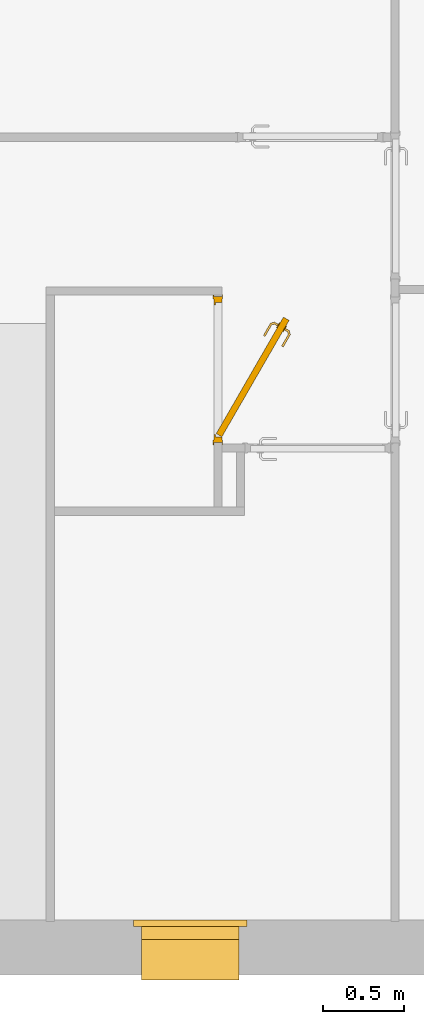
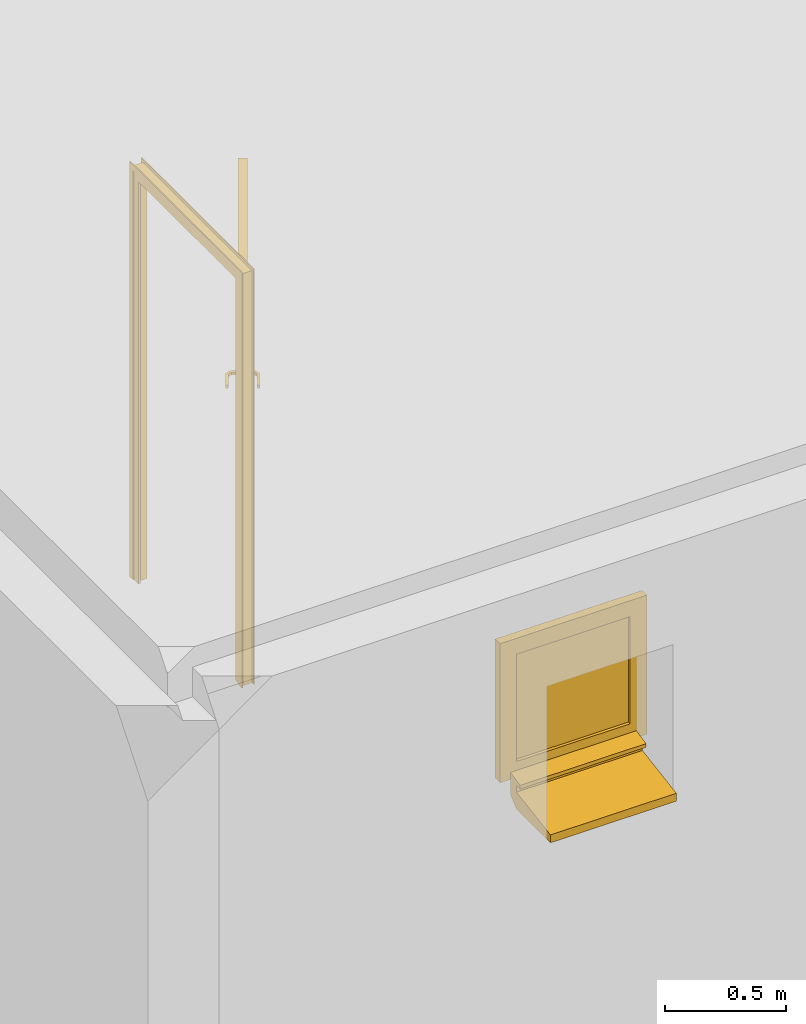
# One storey, part 3 of 14: 1 door, 1 window.
"""IFC2X3 building model written with IfcOpenShell, lengths in millimetres."""

from ifc_helpers import new_model, entity, si_unit, converted_unit, direction, frame, origin, origin_with_axes, place, context, project, spatial, faceted_brep, element, save


model = new_model("IFC2X3")

# Units and contexts
model_context = context("Model", 3, precision=1e-05, world=origin(), true_north=direction((0.0, 1.0, 0.0)))
ifc_project = project(units=[si_unit("LENGTHUNIT", "METRE", prefix="MILLI"), si_unit("AREAUNIT", "SQUARE_METRE"), si_unit("VOLUMEUNIT", "CUBIC_METRE"), converted_unit("PLANEANGLEUNIT", "DEGREE", entity("IfcPlaneAngleMeasure", 0.01745), si_unit("PLANEANGLEUNIT", "RADIAN"), dimensions=[0, 0, 0, 0, 0, 0, 0]), si_unit("SOLIDANGLEUNIT", "STERADIAN"), si_unit("MASSUNIT", "GRAM"), si_unit("TIMEUNIT", "SECOND"), si_unit("THERMODYNAMICTEMPERATUREUNIT", "DEGREE_CELSIUS"), si_unit("LUMINOUSINTENSITYUNIT", "LUMEN")], contexts=[model_context])

# Site, building, storey
placement = place(None, origin_with_axes())
site_placement = place(placement, frame((11636.08881703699, 2815.7442167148, 4.768371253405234e-06), z_axis=(0.0, 0.0, 1.0), x_axis=(1.0, 0.0, 0.0)))
site = spatial("IfcSite", under=ifc_project, at=site_placement, Name="Surface", CompositionType="ELEMENT")
building_placement = place(placement, origin_with_axes())
building = spatial("IfcBuilding", under=site, at=building_placement, Name="Default Building", CompositionType="ELEMENT")
storey_placement = place(building_placement, origin_with_axes())
storey = spatial("IfcBuildingStorey", under=building, at=storey_placement, Name="Plan étage", CompositionType="ELEMENT", Elevation=0.0)

# Window
window_placement = place(storey_placement, frame((11636.08881703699, 2815.7442167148, 4.768371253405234e-06), z_axis=(0.0, 0.0, 1.0), x_axis=(1.0, 0.0, 0.0)))
element("IfcWindow", 1, at=window_placement, inside=storey, Name="IfcWindow - FR_1  Vantail Appui Béton:60x65", context=model_context, shape_type="Brep", body=[
    faceted_brep([(-9706.088829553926, -2490.742956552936, 4859.943706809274), (-9166.088808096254, -2500.765604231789, 4859.943706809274), (-9166.088808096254, -2490.742956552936, 4859.943706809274), (-9706.088829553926, -2500.765604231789, 4859.943706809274), (-9166.088808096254, -2490.742956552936, 4320.000011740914), (-9706.088829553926, -2500.765604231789, 4320.000011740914), (-9706.088829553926, -2490.742956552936, 4320.000011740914), (-9166.088808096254, -2500.765604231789, 4320.000011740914), (-9786.088812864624, -2515.744217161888, 4939.943719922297), (-9706.088829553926, -2515.744217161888, 4859.943706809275), (-9086.088824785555, -2515.744217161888, 4939.943719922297), (-9706.088829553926, -2515.744217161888, 4320.000011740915), (-9786.088812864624, -2515.744217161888, 4239.999998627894), (-9166.088808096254, -2515.744217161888, 4320.000011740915), (-9166.088808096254, -2515.744217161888, 4859.943706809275), (-9086.088824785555, -2515.744217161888, 4239.999998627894), (-9086.088824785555, -2475.744218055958, 4939.943719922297), (-9166.088808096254, -2475.744218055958, 4859.943706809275), (-9786.088812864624, -2475.744218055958, 4939.943719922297), (-9166.088808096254, -2475.744218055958, 4320.000011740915), (-9086.088824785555, -2475.744218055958, 4239.999998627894), (-9706.088829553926, -2475.744218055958, 4859.943706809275), (-9706.088829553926, -2475.744218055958, 4320.000011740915), (-9786.088812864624, -2475.744218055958, 4239.999998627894), (-9736.088830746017, -2595.744215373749, 4258.350391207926), (-9736.088830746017, -2515.744217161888, 4239.999998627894), (-9736.088830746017, -2595.744215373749, 4239.999998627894), (-9736.088830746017, -2515.744217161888, 4275.329936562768), (-9136.088806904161, -2595.744215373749, 4239.999998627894), (-9136.088806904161, -2515.744217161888, 4275.329936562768), (-9136.088806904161, -2595.744215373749, 4258.350391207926), (-9136.088806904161, -2515.744217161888, 4239.999998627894), (-9736.088830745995, -2565.744214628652, 4120.576363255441), (-9736.088830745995, -2845.744223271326, 4160.275791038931), (-9736.088830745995, -2565.744214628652, 4206.120806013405), (-9736.088830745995, -2845.744223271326, 4120.576363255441), (-9736.088830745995, -2515.744210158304, 4239.999998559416), (-9736.088830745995, -2515.744210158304, 4162.110744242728), (-9736.088830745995, -2565.744214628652, 4239.999998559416), (-9136.088806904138, -2565.744214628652, 4120.576363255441), (-9136.088806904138, -2845.744223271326, 4160.275791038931), (-9136.088806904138, -2845.744223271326, 4120.576363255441), (-9136.088806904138, -2565.744214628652, 4206.120806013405), (-9136.088806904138, -2515.744210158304, 4162.110744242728), (-9136.088806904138, -2565.744214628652, 4239.999998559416), (-9136.088806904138, -2515.744210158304, 4239.999998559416)], [[[0, 1, 2]], [[0, 3, 1]], [[4, 5, 6]], [[4, 7, 5]], [[3, 6, 5]], [[3, 0, 6]], [[1, 5, 7]], [[1, 3, 5]], [[2, 7, 4]], [[2, 1, 7]], [[0, 4, 6]], [[0, 2, 4]], [[8, 9, 10]], [[8, 11, 9]], [[11, 12, 13]], [[12, 11, 8]], [[14, 10, 9]], [[13, 10, 14]], [[13, 15, 10]], [[15, 13, 12]], [[16, 17, 18]], [[16, 19, 17]], [[19, 16, 20]], [[21, 18, 17]], [[22, 18, 21]], [[20, 22, 19]], [[22, 23, 18]], [[23, 22, 20]], [[13, 17, 19]], [[13, 14, 17]], [[11, 19, 22]], [[11, 13, 19]], [[9, 22, 21]], [[9, 11, 22]], [[14, 21, 17]], [[14, 9, 21]], [[10, 20, 16]], [[10, 15, 20]], [[8, 16, 18]], [[8, 10, 16]], [[12, 18, 23]], [[12, 8, 18]], [[15, 23, 20]], [[15, 12, 23]], [[24, 25, 26]], [[24, 27, 25]], [[28, 29, 30]], [[28, 31, 29]], [[27, 30, 29]], [[27, 24, 30]], [[25, 29, 31]], [[25, 27, 29]], [[26, 31, 28]], [[26, 25, 31]], [[24, 28, 30]], [[24, 26, 28]], [[32, 33, 34]], [[33, 32, 35]], [[32, 36, 37]], [[34, 36, 32]], [[36, 34, 38]], [[39, 40, 41]], [[39, 42, 40]], [[43, 44, 39]], [[44, 43, 45]], [[36, 44, 45]], [[36, 38, 44]], [[37, 45, 43]], [[37, 36, 45]], [[32, 43, 39]], [[32, 37, 43]], [[35, 39, 41]], [[35, 32, 39]], [[33, 41, 40]], [[33, 35, 41]], [[34, 40, 42]], [[34, 33, 40]], [[38, 42, 44]], [[38, 34, 42]]]),
])

# Door
door_placement = place(storey_placement, frame((11636.08881703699, 2815.7442167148, 4.768371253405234e-06), z_axis=(0.0, 0.0, 1.0), x_axis=(1.0, 0.0, 0.0)))
element("IfcDoor", 2, at=door_placement, inside=storey, Name="IfcDoor - Int. Simple:PP (0.83m x 2.04m)", context=model_context, shape_type="Brep", body=[
    faceted_brep([(-9236.088819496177, 1359.255785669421, 2740.000042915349), (-9241.088818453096, 1389.255786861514, 2740.000042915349), (-9236.088819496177, 1389.255786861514, 2740.000042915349), (-9241.088818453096, 1359.255785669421, 2740.000042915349), (-9236.088819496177, 489.2557809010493, 2740.000042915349), (-9241.088818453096, 459.2557797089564, 2740.000042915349), (-9241.088818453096, 489.2557809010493, 2740.000042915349), (-9236.088819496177, 459.2557797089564, 2740.000042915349), (-9236.088819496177, 1359.255785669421, 4799.99998569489), (-9241.088818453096, 489.2557809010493, 4799.99998569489), (-9241.088818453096, 1359.255785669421, 4799.99998569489), (-9236.088819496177, 489.2557809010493, 4799.99998569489), (-9241.088818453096, 1389.255786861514, 4829.99995708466), (-9236.088819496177, 459.2557797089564, 4829.99995708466), (-9236.088819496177, 1389.255786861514, 4829.99995708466), (-9241.088818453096, 459.2557797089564, 4829.99995708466), (-9291.088819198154, 1359.255785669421, 4799.99998569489), (-9296.088818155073, 489.2557809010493, 4799.99998569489), (-9296.088818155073, 1359.255785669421, 4799.99998569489), (-9291.088819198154, 489.2557809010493, 4799.99998569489), (-9296.088818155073, 1389.255786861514, 4829.99995708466), (-9291.088819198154, 459.2557797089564, 4829.99995708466), (-9291.088819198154, 1389.255786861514, 4829.99995708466), (-9296.088818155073, 459.2557797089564, 4829.99995708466), (-9291.088819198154, 459.2557797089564, 2740.000042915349), (-9296.088818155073, 459.2557797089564, 2740.000042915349), (-9296.088818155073, 489.2557809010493, 2740.000042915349), (-9291.088819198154, 489.2557809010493, 2740.000042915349), (-9291.088819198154, 1359.255785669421, 2740.000042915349), (-9296.088818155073, 1359.255785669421, 2740.000042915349), (-9296.088818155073, 1389.255786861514, 2740.000042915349), (-9291.088819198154, 1389.255786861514, 2740.000042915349), (-9241.088818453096, 1339.255774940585, 4780.000004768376), (-9281.08881849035, 509.2557916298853, 4780.000004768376), (-9281.08881849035, 1339.255774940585, 4780.000004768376), (-9241.088818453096, 509.2557916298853, 4780.000004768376), (-9281.08881849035, 1324.255789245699, 4765.000019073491), (-9291.088819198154, 524.2557773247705, 4765.000019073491), (-9291.088819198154, 1324.255789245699, 4765.000019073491), (-9281.08881849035, 524.2557773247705, 4765.000019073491), (-9291.088819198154, 1374.255771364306, 4814.999971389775), (-9241.088818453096, 474.255795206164, 4814.999971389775), (-9241.088818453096, 1374.255771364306, 4814.999971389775), (-9291.088819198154, 474.255795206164, 4814.999971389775), (-9281.08881849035, 509.2557916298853, 2740.000042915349), (-9241.088818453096, 509.2557916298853, 2740.000042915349), (-9291.088819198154, 524.2557773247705, 2740.000042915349), (-9281.08881849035, 524.2557773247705, 2740.000042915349), (-9291.088819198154, 474.255795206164, 2740.000042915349), (-9241.088818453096, 474.255795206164, 2740.000042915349), (-9241.088818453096, 1339.255774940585, 2740.000042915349), (-9241.088818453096, 1374.255771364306, 2740.000042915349), (-9281.08881849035, 1339.255774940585, 2740.000042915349), (-9281.08881849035, 1324.255789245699, 2740.000042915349), (-9291.088819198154, 1324.255789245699, 2740.000042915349), (-9291.088819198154, 1374.255771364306, 2740.000042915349), (-8860.729829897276, 1248.056856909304, 4779.999980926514), (-8826.088817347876, 1228.05687598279, 2740.000019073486), (-8860.729829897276, 1248.056856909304, 2740.000019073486), (-8826.088817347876, 1228.05687598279, 4779.999980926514), (-9241.088823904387, 509.2557948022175, 2740.000019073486), (-9275.72983645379, 529.2557757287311, 2740.000019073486), (-9241.088823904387, 509.2557948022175, 4779.999980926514), (-9275.72983645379, 529.2557757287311, 4779.999980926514), (-8935.840910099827, 1203.851041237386, 3732.219558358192), (-8958.646589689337, 1168.401044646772, 3732.121313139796), (-8938.509924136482, 1207.329367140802, 3732.219558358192), (-8961.094172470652, 1176.161707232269, 3732.999999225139), (-8953.862024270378, 1164.688153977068, 3732.999999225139), (-8977.94435339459, 1130.92574741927, 3732.219558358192), (-8981.452273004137, 1132.951046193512, 3732.219558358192), (-8974.50215535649, 1128.938397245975, 3732.999999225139), (-8933.221908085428, 1200.437889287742, 3732.999999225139), (-8941.128929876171, 1210.742522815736, 3732.999999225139), (-8984.894463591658, 1134.938396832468, 3732.999999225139), (-8941.128929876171, 1210.742522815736, 3747.000001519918), (-8961.094172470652, 1176.161707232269, 3747.000001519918), (-8984.894463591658, 1134.938396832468, 3747.000001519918), (-8977.94435339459, 1130.92574741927, 3747.780442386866), (-8958.646589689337, 1168.401044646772, 3747.878685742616), (-8981.452273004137, 1132.951046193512, 3747.780442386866), (-8953.862031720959, 1164.688142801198, 3747.000001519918), (-8935.840910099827, 1203.851041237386, 3747.780442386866), (-8938.509924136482, 1207.329367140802, 3747.780442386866), (-8974.50215535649, 1128.938397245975, 3747.000001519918), (-8933.221908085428, 1200.437889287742, 3747.000001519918), (-8916.971172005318, 1208.907176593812, 3732.219558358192), (-8917.53271947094, 1204.64179370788, 3732.999999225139), (-8915.83735382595, 1217.519377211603, 3732.999999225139), (-8916.398902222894, 1213.25400177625, 3732.219558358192), (-8915.83735382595, 1217.519377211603, 3747.000001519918), (-8916.398902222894, 1213.25400177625, 3747.780442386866), (-8917.53271947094, 1204.64179370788, 3747.000001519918), (-8916.971172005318, 1208.907176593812, 3747.780442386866), (-8896.072611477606, 1196.841382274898, 3732.219558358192), (-8898.059961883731, 1193.399191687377, 3732.999999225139), (-8894.047312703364, 1200.349305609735, 3732.219558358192), (-8892.059962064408, 1203.791496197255, 3732.999999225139), (-8892.059962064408, 1203.791496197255, 3747.000001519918), (-8894.047312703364, 1200.349305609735, 3747.780442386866), (-8896.072611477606, 1196.841382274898, 3747.780442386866), (-8898.059961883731, 1193.399191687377, 3747.000001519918), (-8861.906455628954, 1063.962583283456, 3732.999999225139), (-8838.050985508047, 1105.281469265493, 3747.000001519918), (-8861.906455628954, 1063.962583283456, 3747.000001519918), (-8818.085739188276, 1139.86228560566, 3747.000001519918), (-8838.050978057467, 1105.281476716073, 3732.999999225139), (-8818.085739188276, 1139.86228560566, 3732.999999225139), (-8868.856569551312, 1067.97522757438, 3732.219558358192), (-8846.023296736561, 1103.473015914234, 3732.121313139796), (-8865.348646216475, 1065.949928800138, 3732.219558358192), (-8851.631043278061, 1105.760116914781, 3732.999999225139), (-8826.697947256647, 1140.996104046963, 3732.219558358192), (-8822.35112207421, 1140.42383350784, 3732.219558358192), (-8872.298760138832, 1069.962580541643, 3732.999999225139), (-8830.96333014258, 1141.557651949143, 3732.999999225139), (-8872.298760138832, 1069.962580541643, 3747.000001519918), (-8851.631043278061, 1105.760116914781, 3747.000001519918), (-8830.96333014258, 1141.557651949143, 3747.000001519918), (-8826.697947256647, 1140.996104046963, 3747.780442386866), (-8846.023296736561, 1103.473015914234, 3747.878685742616), (-8822.35112207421, 1140.42383350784, 3747.780442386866), (-8868.856569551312, 1067.97522757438, 3747.780442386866), (-8865.348646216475, 1065.949928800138, 3747.780442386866), (-8824.81226491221, 1164.966021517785, 3732.999999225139), (-8824.81226491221, 1164.966021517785, 3747.000001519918), (-8828.225420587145, 1162.347015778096, 3732.219558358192), (-8835.116902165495, 1157.058997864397, 3732.999999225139), (-8831.70374649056, 1159.678001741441, 3732.219558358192), (-8835.116902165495, 1157.058997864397, 3747.000001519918), (-8831.70374649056, 1159.678001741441, 3747.780442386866), (-8828.225420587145, 1162.347015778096, 3747.780442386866), (-8848.758691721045, 1178.791497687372, 3732.999999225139), (-8848.758691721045, 1178.791497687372, 3747.000001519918), (-8850.746040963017, 1175.349303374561, 3732.219558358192), (-8852.771339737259, 1171.841383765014, 3732.219558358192), (-8854.758692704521, 1168.399191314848, 3732.999999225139), (-8854.758692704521, 1168.399191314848, 3747.000001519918), (-8852.771339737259, 1171.841383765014, 3747.780442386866), (-8850.746040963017, 1175.349303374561, 3747.780442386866), (-8905.059962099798, 1181.274835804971, 3610.000003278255), (-8900.729834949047, 1178.774834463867, 3819.999996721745), (-8905.059962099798, 1181.274835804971, 3819.999996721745), (-8900.729834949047, 1178.774834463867, 3610.000003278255), (-8895.90621579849, 1187.129587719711, 3606.003981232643), (-8900.236342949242, 1189.629589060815, 3606.003981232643), (-8895.059962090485, 1198.595345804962, 3604.641016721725), (-8890.729835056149, 1196.095344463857, 3604.641016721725), (-8889.883581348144, 1207.561102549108, 3606.003981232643), (-8885.553454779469, 1205.061097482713, 3606.003981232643), (-8885.059961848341, 1215.915855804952, 3610.000003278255), (-8880.729835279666, 1213.415850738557, 3610.000003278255), (-8880.729835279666, 1213.415850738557, 3819.999996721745), (-8885.059961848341, 1215.915855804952, 3819.999996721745), (-8885.553454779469, 1205.061097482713, 3823.996018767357), (-8889.883581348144, 1207.561102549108, 3823.996018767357), (-8895.059962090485, 1198.595345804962, 3825.358983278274), (-8890.729835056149, 1196.095344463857, 3825.358983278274), (-8900.236342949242, 1189.629589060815, 3823.996018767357), (-8895.90621579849, 1187.129587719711, 3823.996018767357), (-8846.08881714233, 1193.415851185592, 3610.000003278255), (-8841.7586924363, 1190.915853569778, 3819.999996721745), (-8841.7586924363, 1190.915853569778, 3610.000003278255), (-8846.08881714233, 1193.415851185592, 3819.999996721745), (-8846.582310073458, 1182.561100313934, 3823.996018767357), (-8850.912438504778, 1185.061097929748, 3823.996018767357), (-8856.088818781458, 1176.095344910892, 3825.358983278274), (-8851.758690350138, 1173.595343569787, 3825.358983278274), (-8861.265199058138, 1167.129590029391, 3823.996018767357), (-8856.935074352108, 1164.629588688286, 3823.996018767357), (-8866.088820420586, 1158.774836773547, 3819.999996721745), (-8861.758691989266, 1156.274836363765, 3819.999996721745), (-8866.088820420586, 1158.774836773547, 3610.000003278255), (-8861.758691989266, 1156.274836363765, 3610.000003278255), (-8856.935074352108, 1164.629588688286, 3606.003981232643), (-8861.265199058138, 1167.129590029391, 3606.003981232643), (-8856.088818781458, 1176.095344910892, 3604.641016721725), (-8851.758690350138, 1173.595343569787, 3604.641016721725), (-8850.912438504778, 1185.061097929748, 3606.003981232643), (-8846.582310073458, 1182.561100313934, 3606.003981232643)], [[[0, 1, 2]], [[0, 3, 1]], [[4, 5, 6]], [[4, 7, 5]], [[8, 9, 10]], [[8, 11, 9]], [[12, 13, 14]], [[12, 15, 13]], [[15, 7, 13]], [[15, 5, 7]], [[11, 6, 9]], [[11, 4, 6]], [[0, 10, 3]], [[0, 8, 10]], [[12, 10, 15]], [[1, 10, 12]], [[10, 1, 3]], [[9, 15, 10]], [[6, 15, 9]], [[15, 6, 5]], [[1, 14, 2]], [[1, 12, 14]], [[13, 11, 14]], [[7, 11, 13]], [[11, 7, 4]], [[8, 14, 11]], [[0, 14, 8]], [[14, 0, 2]], [[16, 17, 18]], [[16, 19, 17]], [[20, 21, 22]], [[20, 23, 21]], [[23, 24, 21]], [[23, 25, 24]], [[19, 26, 17]], [[19, 27, 26]], [[27, 25, 26]], [[27, 24, 25]], [[28, 18, 29]], [[28, 16, 18]], [[20, 18, 23]], [[30, 18, 20]], [[18, 30, 29]], [[17, 23, 18]], [[26, 23, 17]], [[23, 26, 25]], [[30, 22, 31]], [[30, 20, 22]], [[21, 19, 22]], [[24, 19, 21]], [[19, 24, 27]], [[16, 22, 19]], [[28, 22, 16]], [[22, 28, 31]], [[28, 30, 31]], [[28, 29, 30]], [[32, 33, 34]], [[32, 35, 33]], [[36, 37, 38]], [[36, 39, 37]], [[40, 41, 42]], [[40, 43, 41]], [[35, 44, 33]], [[35, 45, 44]], [[39, 46, 37]], [[39, 47, 46]], [[47, 48, 46]], [[44, 48, 47]], [[45, 48, 44]], [[48, 45, 49]], [[43, 49, 41]], [[43, 48, 49]], [[41, 35, 42]], [[49, 35, 41]], [[35, 49, 45]], [[32, 42, 35]], [[50, 42, 32]], [[42, 50, 51]], [[50, 34, 52]], [[50, 32, 34]], [[33, 39, 34]], [[44, 39, 33]], [[39, 44, 47]], [[36, 34, 39]], [[53, 34, 36]], [[34, 53, 52]], [[53, 38, 54]], [[53, 36, 38]], [[40, 38, 43]], [[55, 38, 40]], [[38, 55, 54]], [[37, 43, 38]], [[46, 43, 37]], [[43, 46, 48]], [[55, 42, 51]], [[55, 40, 42]], [[54, 52, 53]], [[55, 52, 54]], [[55, 50, 52]], [[50, 55, 51]], [[56, 57, 58]], [[56, 59, 57]], [[58, 60, 61]], [[58, 57, 60]], [[61, 62, 63]], [[61, 60, 62]], [[63, 59, 56]], [[63, 62, 59]], [[59, 60, 57]], [[59, 62, 60]], [[56, 61, 63]], [[56, 58, 61]], [[64, 65, 66]], [[65, 67, 66]], [[65, 68, 69]], [[65, 69, 70]], [[71, 69, 68]], [[68, 64, 72]], [[64, 68, 65]], [[67, 73, 66]], [[67, 70, 74]], [[65, 70, 67]], [[67, 75, 73]], [[74, 75, 67]], [[74, 76, 75]], [[76, 74, 77]], [[78, 79, 80]], [[79, 81, 82]], [[79, 82, 83]], [[79, 83, 76]], [[76, 83, 75]], [[80, 76, 77]], [[78, 84, 81]], [[82, 81, 85]], [[80, 79, 76]], [[79, 78, 81]], [[84, 72, 85]], [[84, 68, 72]], [[68, 84, 71]], [[70, 77, 74]], [[70, 80, 77]], [[69, 80, 70]], [[69, 78, 80]], [[69, 84, 78]], [[84, 69, 71]], [[86, 72, 64]], [[86, 87, 72]], [[88, 66, 73]], [[88, 89, 66]], [[73, 90, 88]], [[73, 75, 90]], [[90, 83, 91]], [[90, 75, 83]], [[92, 82, 85]], [[92, 93, 82]], [[85, 87, 92]], [[85, 72, 87]], [[94, 87, 86]], [[94, 95, 87]], [[66, 86, 64]], [[89, 86, 66]], [[89, 94, 86]], [[94, 89, 96]], [[97, 89, 88]], [[97, 96, 89]], [[90, 97, 88]], [[90, 98, 97]], [[98, 91, 99]], [[98, 90, 91]], [[83, 93, 91]], [[93, 83, 82]], [[93, 99, 91]], [[99, 93, 100]], [[100, 92, 101]], [[100, 93, 92]], [[92, 95, 101]], [[92, 87, 95]], [[98, 96, 97]], [[99, 96, 98]], [[99, 94, 96]], [[100, 94, 99]], [[100, 95, 94]], [[95, 100, 101]], [[102, 103, 104]], [[102, 105, 103]], [[106, 105, 102]], [[105, 106, 107]], [[108, 109, 110]], [[109, 111, 112]], [[109, 112, 113]], [[109, 113, 106]], [[106, 113, 107]], [[110, 106, 102]], [[108, 114, 111]], [[112, 111, 115]], [[110, 109, 106]], [[109, 108, 111]], [[116, 115, 114]], [[117, 115, 116]], [[115, 117, 118]], [[119, 120, 121]], [[120, 103, 121]], [[120, 117, 122]], [[120, 122, 123]], [[116, 122, 117]], [[117, 119, 118]], [[119, 117, 120]], [[103, 105, 121]], [[103, 123, 104]], [[120, 123, 103]], [[114, 122, 116]], [[108, 122, 114]], [[108, 123, 122]], [[110, 123, 108]], [[110, 104, 123]], [[104, 110, 102]], [[105, 124, 125]], [[105, 107, 124]], [[126, 107, 113]], [[126, 124, 107]], [[127, 112, 115]], [[127, 128, 112]], [[115, 129, 127]], [[115, 118, 129]], [[130, 118, 119]], [[130, 129, 118]], [[125, 121, 105]], [[125, 131, 121]], [[125, 132, 133]], [[125, 124, 132]], [[132, 126, 134]], [[132, 124, 126]], [[126, 128, 134]], [[113, 128, 126]], [[128, 113, 112]], [[134, 128, 135]], [[135, 127, 136]], [[135, 128, 127]], [[127, 137, 136]], [[127, 129, 137]], [[138, 129, 130]], [[138, 137, 129]], [[121, 130, 119]], [[130, 131, 139]], [[131, 130, 121]], [[138, 130, 139]], [[133, 131, 125]], [[133, 139, 131]], [[134, 133, 132]], [[134, 139, 133]], [[135, 139, 134]], [[135, 138, 139]], [[135, 137, 138]], [[137, 135, 136]], [[140, 141, 142]], [[140, 143, 141]], [[144, 140, 145]], [[144, 143, 140]], [[144, 146, 147]], [[144, 145, 146]], [[147, 148, 149]], [[147, 146, 148]], [[149, 150, 151]], [[149, 148, 150]], [[150, 152, 151]], [[150, 153, 152]], [[154, 153, 155]], [[154, 152, 153]], [[154, 156, 157]], [[154, 155, 156]], [[157, 158, 159]], [[157, 156, 158]], [[159, 142, 141]], [[159, 158, 142]], [[146, 150, 148]], [[146, 153, 150]], [[145, 153, 146]], [[145, 155, 153]], [[140, 155, 145]], [[140, 156, 155]], [[140, 158, 156]], [[158, 140, 142]], [[159, 154, 157]], [[141, 154, 159]], [[141, 152, 154]], [[141, 151, 152]], [[143, 151, 141]], [[144, 151, 143]], [[144, 149, 151]], [[149, 144, 147]], [[160, 161, 162]], [[160, 163, 161]], [[164, 163, 165]], [[164, 161, 163]], [[164, 166, 167]], [[164, 165, 166]], [[167, 168, 169]], [[167, 166, 168]], [[169, 170, 171]], [[169, 168, 170]], [[172, 171, 170]], [[172, 173, 171]], [[174, 172, 175]], [[174, 173, 172]], [[174, 176, 177]], [[174, 175, 176]], [[177, 178, 179]], [[177, 176, 178]], [[179, 160, 162]], [[179, 178, 160]], [[175, 178, 176]], [[172, 178, 175]], [[172, 160, 178]], [[170, 160, 172]], [[170, 163, 160]], [[168, 163, 170]], [[168, 165, 163]], [[165, 168, 166]], [[169, 164, 167]], [[171, 164, 169]], [[171, 161, 164]], [[171, 162, 161]], [[173, 162, 171]], [[174, 162, 173]], [[174, 179, 162]], [[179, 174, 177]]]),
])

save(model, "model.ifc")
